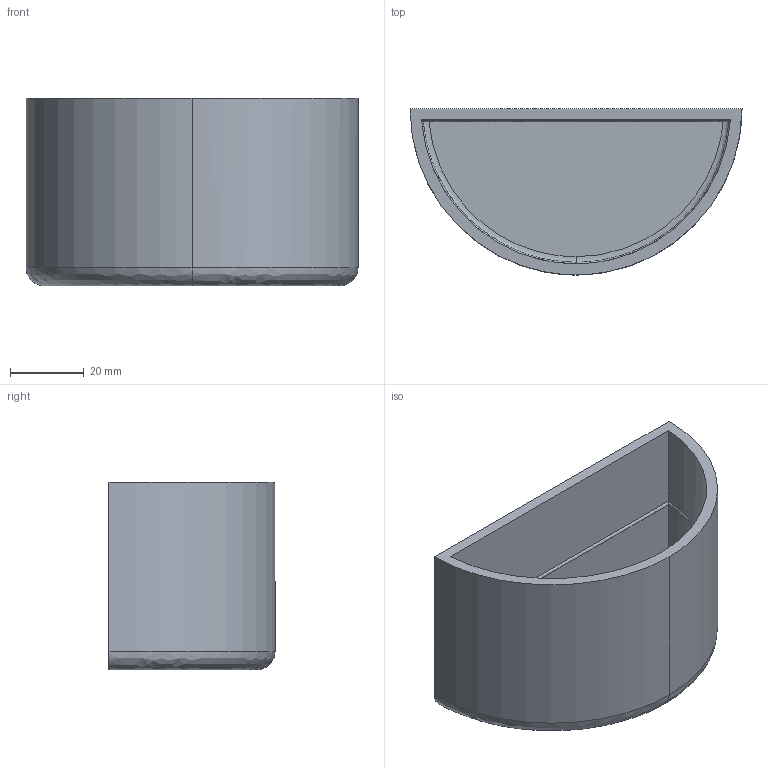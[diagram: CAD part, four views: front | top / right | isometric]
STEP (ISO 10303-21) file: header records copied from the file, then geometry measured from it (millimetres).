
FILE_DESCRIPTION(/* description */ (''),/* implementation_level */ '2;1');
FILE_NAME(/* name */ 'No Handle - 1-2 Cup',/* time_stamp */ '2020-01-31T12:03:56-08:00',/* author */ (''),/* organization */ (''),/* preprocessor_version */ 'ST-DEVELOPER v16.5',/* originating_system */ '',/* authorisation */ '');
FILE_SCHEMA (('AUTOMOTIVE_DESIGN'));
Length unit declared in the file: centimetre
Products named in the file (1): Document
Bounding box: 90 x 45 x 50.91 mm (x, y, z)
Volume: 40785.7 mm3; surface area: 27865.6 mm2
Topology: 1 solids, 1 shells, 19 faces, 40 edges, 24 vertices
Faces by surface type: bspline 13, plane 6
Entity records: 853 total; most frequent: CARTESIAN_POINT 588, ORIENTED_EDGE 80, EDGE_CURVE 40, VERTEX_POINT 24, EDGE_LOOP 20, ADVANCED_FACE 19, FACE_OUTER_BOUND 19, B_SPLINE_CURVE_WITH_KNOTS 19
